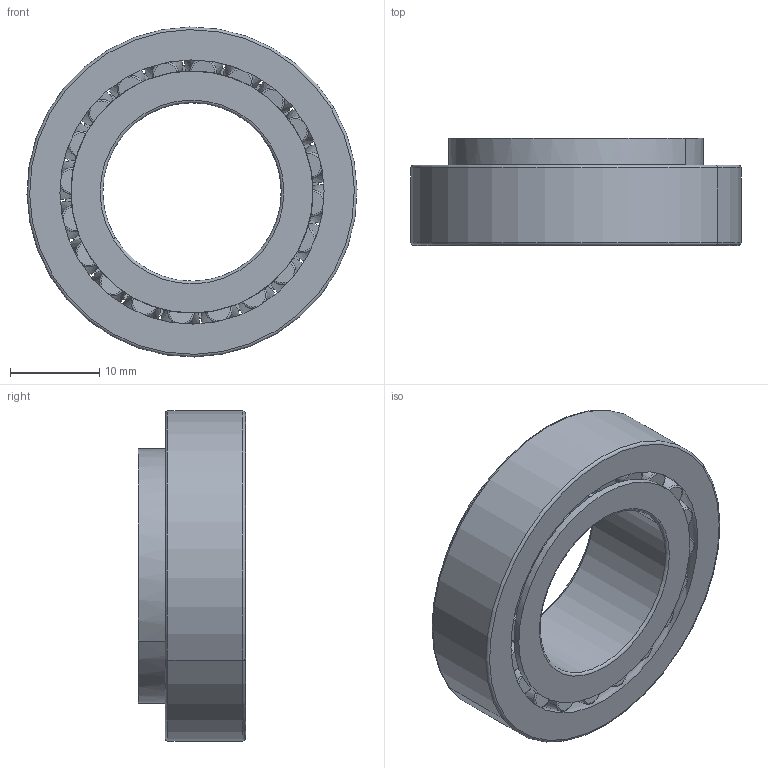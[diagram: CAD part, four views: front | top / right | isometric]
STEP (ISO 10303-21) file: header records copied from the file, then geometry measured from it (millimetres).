
FILE_DESCRIPTION(('Open CASCADE Model'),'2;1');
FILE_NAME('Open CASCADE Shape Model','2026-09-19T11:07:49',('Author'),( 'Open CASCADE'),'Open CASCADE STEP processor 7.9','Open CASCADE 7.9' ,'Unknown');
FILE_SCHEMA(('AUTOMOTIVE_DESIGN { 1 0 10303 214 1 1 1 1 }'));
Products named in the file (1): Open CASCADE STEP translator 7.9 14
Bounding box: 37 x 12 x 37 mm (x, y, z)
Volume: 6749.4 mm3; surface area: 6574.8 mm2
Topology: 1 solids, 1 shells, 188 faces, 780 edges, 512 vertices
Faces by surface type: torus 88, cone 48, plane 44, cylinder 8
Entity records: 41738 total; most frequent: CARTESIAN_POINT 29121, DIRECTION 1658, ORIENTED_EDGE 1560, PCURVE 1560, DEFINITIONAL_REPRESENTATION 1560, B_SPLINE_CURVE_WITH_KNOTS 1244, EDGE_CURVE 780, SURFACE_CURVE 780
